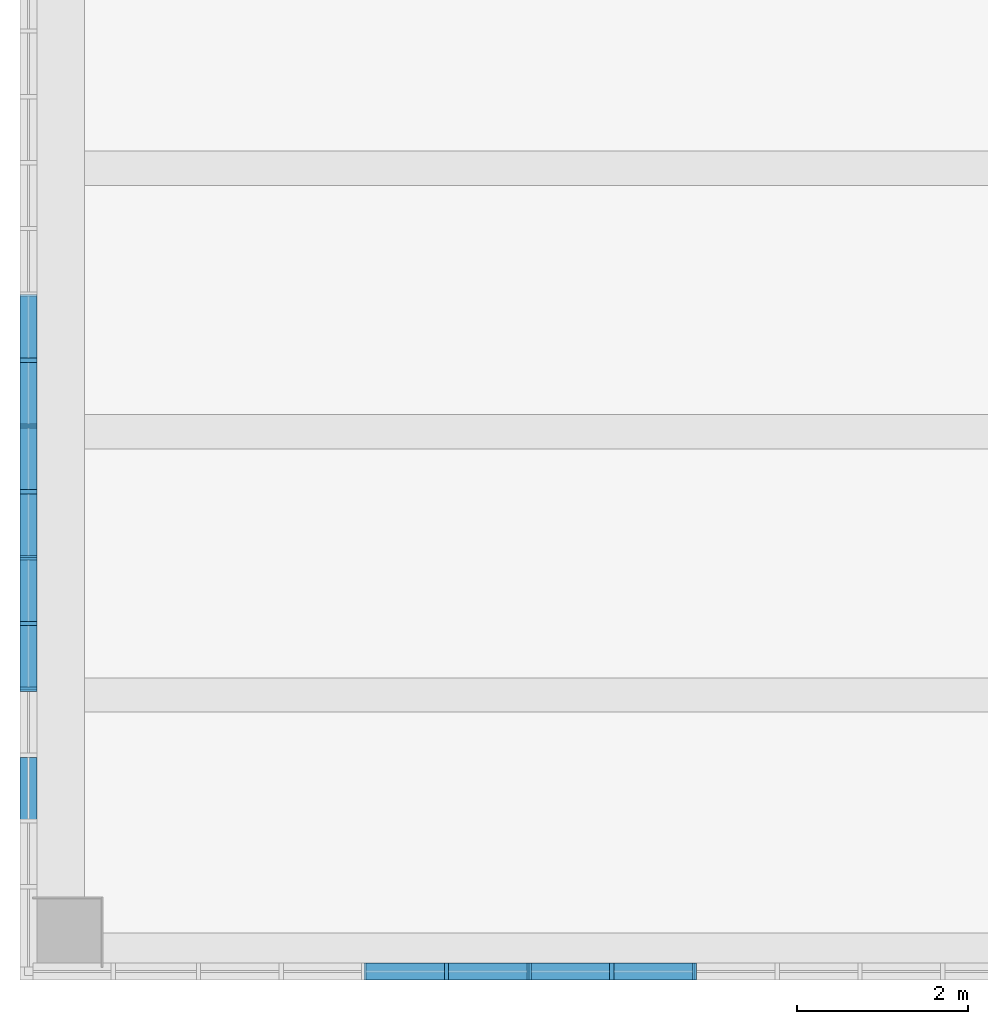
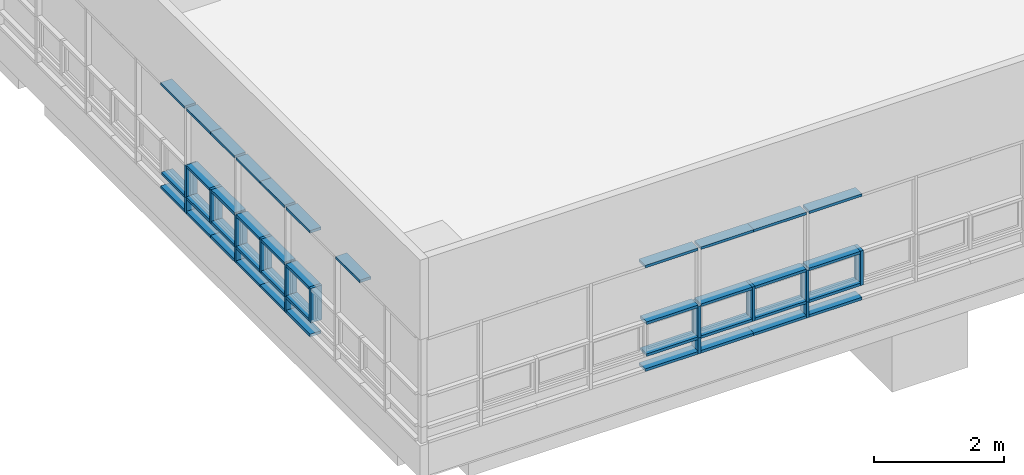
# One storey, part 10 of 82: 55 members, 2 elements without a shape of their own.
"""IFC2X3 building model written with IfcOpenShell, lengths in millimetres."""

from ifc_helpers import new_model, entity, si_unit, converted_unit, derived_unit, direction, frame, origin, origin_2d_with_axis, place, context, subcontext, project, spatial, rectangle, extrude, source, transform, mapped, material, type_object, type_shapes, element, aggregate, save


model = new_model("IFC2X3")

# Units and contexts
model_context = context("Model", 3, precision=0.01, world=origin(), true_north=direction((6.123031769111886e-17, 1.0)))
body_context = subcontext(model_context, "Body", "Model", "MODEL_VIEW")
ifc_project = project(units=[si_unit("LENGTHUNIT", "METRE", prefix="MILLI"), si_unit("AREAUNIT", "SQUARE_METRE"), si_unit("VOLUMEUNIT", "CUBIC_METRE"), converted_unit("PLANEANGLEUNIT", "DEGREE", entity("IfcRatioMeasure", 0.017453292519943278), si_unit("PLANEANGLEUNIT", "RADIAN"), dimensions=[0, 0, 0, 0, 0, 0, 0]), si_unit("MASSUNIT", "GRAM", prefix="KILO"), derived_unit("MASSDENSITYUNIT", [(si_unit("MASSUNIT", "GRAM", prefix="KILO"), 1), (si_unit("LENGTHUNIT", "METRE"), -3)]), derived_unit("MOMENTOFINERTIAUNIT", [(si_unit("LENGTHUNIT", "METRE"), 4)]), si_unit("TIMEUNIT", "SECOND"), si_unit("FREQUENCYUNIT", "HERTZ"), si_unit("THERMODYNAMICTEMPERATUREUNIT", "DEGREE_CELSIUS"), derived_unit("THERMALTRANSMITTANCEUNIT", [(si_unit("MASSUNIT", "GRAM", prefix="KILO"), 1), (si_unit("THERMODYNAMICTEMPERATUREUNIT", "KELVIN"), -1), (si_unit("TIMEUNIT", "SECOND"), -3)]), derived_unit("VOLUMETRICFLOWRATEUNIT", [(si_unit("LENGTHUNIT", "METRE"), 3), (si_unit("TIMEUNIT", "SECOND"), -1)]), derived_unit("MASSFLOWRATEUNIT", [(si_unit("MASSUNIT", "GRAM", prefix="KILO"), 1), (si_unit("TIMEUNIT", "SECOND"), -1)]), derived_unit("ROTATIONALFREQUENCYUNIT", [(si_unit("TIMEUNIT", "SECOND"), -1)]), si_unit("ELECTRICCURRENTUNIT", "AMPERE"), si_unit("ELECTRICVOLTAGEUNIT", "VOLT"), si_unit("POWERUNIT", "WATT"), si_unit("FORCEUNIT", "NEWTON", prefix="KILO"), si_unit("ILLUMINANCEUNIT", "LUX"), si_unit("LUMINOUSFLUXUNIT", "LUMEN"), si_unit("LUMINOUSINTENSITYUNIT", "CANDELA"), derived_unit("USERDEFINED", [(si_unit("MASSUNIT", "GRAM", prefix="KILO"), -1), (si_unit("LENGTHUNIT", "METRE"), -2), (si_unit("TIMEUNIT", "SECOND"), 3), (si_unit("LUMINOUSFLUXUNIT", "LUMEN"), 1)]), derived_unit("SOUNDPOWERUNIT", [(si_unit("MASSUNIT", "GRAM", prefix="KILO"), 1), (si_unit("LENGTHUNIT", "METRE"), 2), (si_unit("TIMEUNIT", "SECOND"), -3)]), derived_unit("SOUNDPRESSUREUNIT", [(si_unit("MASSUNIT", "GRAM", prefix="KILO"), 1), (si_unit("LENGTHUNIT", "METRE"), -1), (si_unit("TIMEUNIT", "SECOND"), -2)]), derived_unit("LINEARVELOCITYUNIT", [(si_unit("LENGTHUNIT", "METRE"), 1), (si_unit("TIMEUNIT", "SECOND"), -1)]), si_unit("PRESSUREUNIT", "PASCAL"), derived_unit("USERDEFINED", [(si_unit("LENGTHUNIT", "METRE"), -2), (si_unit("MASSUNIT", "GRAM", prefix="KILO"), 1), (si_unit("TIMEUNIT", "SECOND"), -2)]), derived_unit("LINEARFORCEUNIT", [(si_unit("MASSUNIT", "GRAM", prefix="KILO"), 1), (si_unit("LENGTHUNIT", "METRE"), 1), (si_unit("TIMEUNIT", "SECOND"), -2), (si_unit("LENGTHUNIT", "METRE"), -1)]), derived_unit("PLANARFORCEUNIT", [(si_unit("MASSUNIT", "GRAM", prefix="KILO"), 1), (si_unit("LENGTHUNIT", "METRE"), 1), (si_unit("TIMEUNIT", "SECOND"), -2), (si_unit("LENGTHUNIT", "METRE"), -2)])], contexts=[model_context])

# Site, building, storey
site_placement = place(None, frame((-14167.972527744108, -657.2125860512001, 0.0)))
site = spatial("IfcSite", under=ifc_project, at=site_placement, Name="Default", CompositionType="ELEMENT")
building_placement = place(site_placement, origin())
building = spatial("IfcBuilding", under=site, at=building_placement, Name="Sample Building", CompositionType="ELEMENT")
storey_placement = place(building_placement, frame((0.0, 0.0, 17500.0)))
storey = spatial("IfcBuildingStorey", under=building, at=storey_placement, Name="지상 5층", CompositionType="ELEMENT", Elevation=17500.00000000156)

# Curtain wall, members
curtain_wall_type = type_object("IfcCurtainWallType", Name="커튼월:CW112-스테인리스 스틸 커튼월", PredefinedType="NOTDEFINED")
curtain_wall_1_placement = place(storey_placement, frame((0.0, 0.0, -17500.0)))
curtain_wall_1 = element("IfcCurtainWall", 1, at=curtain_wall_1_placement, inside=storey, type_object=curtain_wall_type, Name="커튼월:CW112-스테인리스 스틸 커튼월", ObjectType="커튼월:CW112-스테인리스 스틸 커튼월")
ifc_material = material(Name="<Unnamed>")
member_type_1 = type_object("IfcMemberType", Name="직사각형 멀리언:CW200-직사각형 멀리언 50x200mm", PredefinedType="MULLION", material=ifc_material)
shared_shape_1 = source(origin(), body_context, "Body", "SweptSolid", [
    extrude(rectangle(XDim=200.0, YDim=50.0, at=origin_2d_with_axis()), frame((0.0, 0.0, -600.0), z_axis=(0.0, 0.0, 1.0), x_axis=(0.0, -1.0, 0.0)), (0.0, 0.0, 1.0), 600.0),
])
type_shapes(member_type_1, [shared_shape_1])
member_1_placement = place(curtain_wall_1_placement, frame((18895.156070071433, 507.21229514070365, 18400.0), z_axis=(0.0, 0.0, -1.0), x_axis=(1.0, 0.0, 0.0)))
member_1 = element("IfcMember", 2, at=member_1_placement, type_object=member_type_1, material=ifc_material, Name="직사각형 멀리언:CW200-직사각형 멀리언 50x200mm", ObjectType="직사각형 멀리언:CW200-직사각형 멀리언 50x200mm", context=body_context, shape_type="MappedRepresentation", body=[
    mapped(shared_shape_1, transform((0.0, 0.0, 0.0), scale=1.0)),
])
member_2_placement = place(curtain_wall_1_placement, frame((20825.156070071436, 507.21229514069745, 18400.0), z_axis=(0.0, 0.0, -1.0), x_axis=(1.0, 0.0, 0.0)))
member_2 = element("IfcMember", 3, at=member_2_placement, type_object=member_type_1, material=ifc_material, Name="직사각형 멀리언:CW200-직사각형 멀리언 50x200mm", ObjectType="직사각형 멀리언:CW200-직사각형 멀리언 50x200mm", context=body_context, shape_type="MappedRepresentation", body=[
    mapped(shared_shape_1, transform((0.0, 0.0, 0.0), scale=1.0)),
])

curtain_wall_2_placement = place(storey_placement, frame((0.0, 0.0, -17500.0)))
curtain_wall_2 = element("IfcCurtainWall", 4, at=curtain_wall_2_placement, inside=storey, type_object=curtain_wall_type, Name="커튼월:CW112-스테인리스 스틸 커튼월", ObjectType="커튼월:CW112-스테인리스 스틸 커튼월")
member_3_placement = place(curtain_wall_2_placement, frame((14017.339654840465, 7641.674849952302, 18400.0), z_axis=(0.0, 0.0, -1.0), x_axis=(0.0, -1.0, 0.0)))
member_3 = element("IfcMember", 5, at=member_3_placement, type_object=member_type_1, material=ifc_material, Name="직사각형 멀리언:CW200-직사각형 멀리언 50x200mm", ObjectType="직사각형 멀리언:CW200-직사각형 멀리언 50x200mm", context=body_context, shape_type="MappedRepresentation", body=[
    mapped(shared_shape_1, transform((0.0, 0.0, 0.0), scale=1.0)),
])
member_4_placement = place(curtain_wall_2_placement, frame((14017.339654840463, 6104.960564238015, 18400.0), z_axis=(0.0, 0.0, -1.0), x_axis=(0.0, -1.0, 0.0)))
member_4 = element("IfcMember", 6, at=member_4_placement, type_object=member_type_1, material=ifc_material, Name="직사각형 멀리언:CW200-직사각형 멀리언 50x200mm", ObjectType="직사각형 멀리언:CW200-직사각형 멀리언 50x200mm", context=body_context, shape_type="MappedRepresentation", body=[
    mapped(shared_shape_1, transform((0.0, 0.0, 0.0), scale=1.0)),
])
member_5_placement = place(curtain_wall_2_placement, frame((14017.339654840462, 4568.246278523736, 18400.0), z_axis=(0.0, 0.0, -1.0), x_axis=(0.0, -1.0, 0.0)))
member_5 = element("IfcMember", 7, at=member_5_placement, type_object=member_type_1, material=ifc_material, Name="직사각형 멀리언:CW200-직사각형 멀리언 50x200mm", ObjectType="직사각형 멀리언:CW200-직사각형 멀리언 50x200mm", context=body_context, shape_type="MappedRepresentation", body=[
    mapped(shared_shape_1, transform((0.0, 0.0, 0.0), scale=1.0)),
])

# Member
member_type_2 = type_object("IfcMemberType", Name="직사각형 멀리언:CW200-직사각형 멀리언 50x200mm", PredefinedType="MULLION", material=ifc_material)
shared_shape_2 = source(origin(), body_context, "Body", "SweptSolid", [
    extrude(rectangle(XDim=200.0, YDim=50.0, at=origin_2d_with_axis()), frame((0.0, 0.0, -915.0), z_axis=(0.0, 0.0, 1.0), x_axis=(0.0, -1.0, 0.0)), (0.0, 0.0, 1.0), 915.000000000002),
])
type_shapes(member_type_2, [shared_shape_2])
member_6_placement = place(curtain_wall_1_placement, frame((19835.15607007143, 507.21229514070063, 18400.0), z_axis=(1.0, 0.0, 0.0), x_axis=(0.0, 0.0, 1.0)))
member_6 = element("IfcMember", 8, at=member_6_placement, type_object=member_type_2, material=ifc_material, Name="직사각형 멀리언:CW200-직사각형 멀리언 50x200mm", ObjectType="직사각형 멀리언:CW200-직사각형 멀리언 50x200mm", context=body_context, shape_type="MappedRepresentation", body=[
    mapped(shared_shape_2, transform((0.0, 0.0, 0.0), scale=1.0)),
])

member_7_placement = place(curtain_wall_1_placement, frame((19835.15607007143, 507.21229514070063, 19000.0), z_axis=(1.0, 0.0, 0.0), x_axis=(0.0, 0.0, 1.0)))
member_7 = element("IfcMember", 9, at=member_7_placement, type_object=member_type_2, material=ifc_material, Name="직사각형 멀리언:CW200-직사각형 멀리언 50x200mm", ObjectType="직사각형 멀리언:CW200-직사각형 멀리언 50x200mm", context=body_context, shape_type="MappedRepresentation", body=[
    mapped(shared_shape_2, transform((0.0, 0.0, 0.0), scale=1.0)),
])

member_8_placement = place(curtain_wall_1_placement, frame((21765.156070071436, 507.2122951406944, 18400.0), z_axis=(1.0, 0.0, 0.0), x_axis=(0.0, 0.0, 1.0)))
member_8 = element("IfcMember", 10, at=member_8_placement, type_object=member_type_2, material=ifc_material, Name="직사각형 멀리언:CW200-직사각형 멀리언 50x200mm", ObjectType="직사각형 멀리언:CW200-직사각형 멀리언 50x200mm", context=body_context, shape_type="MappedRepresentation", body=[
    mapped(shared_shape_2, transform((0.0, 0.0, 0.0), scale=1.0)),
])

member_9_placement = place(curtain_wall_1_placement, frame((21765.156070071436, 507.2122951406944, 19000.0), z_axis=(1.0, 0.0, 0.0), x_axis=(0.0, 0.0, 1.0)))
member_9 = element("IfcMember", 11, at=member_9_placement, type_object=member_type_2, material=ifc_material, Name="직사각형 멀리언:CW200-직사각형 멀리언 50x200mm", ObjectType="직사각형 멀리언:CW200-직사각형 멀리언 50x200mm", context=body_context, shape_type="MappedRepresentation", body=[
    mapped(shared_shape_2, transform((0.0, 0.0, 0.0), scale=1.0)),
])

member_10_placement = place(curtain_wall_1_placement, frame((18870.156070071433, 507.21229514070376, 18400.0), z_axis=(1.0, 0.0, 0.0), x_axis=(0.0, 0.0, 1.0)))
member_10 = element("IfcMember", 12, at=member_10_placement, type_object=member_type_2, material=ifc_material, Name="직사각형 멀리언:CW200-직사각형 멀리언 50x200mm", ObjectType="직사각형 멀리언:CW200-직사각형 멀리언 50x200mm", context=body_context, shape_type="MappedRepresentation", body=[
    mapped(shared_shape_2, transform((0.0, 0.0, 0.0), scale=1.0)),
])

member_11_placement = place(curtain_wall_1_placement, frame((18870.156070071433, 507.21229514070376, 19000.0), z_axis=(1.0, 0.0, 0.0), x_axis=(0.0, 0.0, 1.0)))
member_11 = element("IfcMember", 13, at=member_11_placement, type_object=member_type_2, material=ifc_material, Name="직사각형 멀리언:CW200-직사각형 멀리언 50x200mm", ObjectType="직사각형 멀리언:CW200-직사각형 멀리언 50x200mm", context=body_context, shape_type="MappedRepresentation", body=[
    mapped(shared_shape_2, transform((0.0, 0.0, 0.0), scale=1.0)),
])

member_12_placement = place(curtain_wall_1_placement, frame((20800.15607007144, 507.2122951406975, 18400.0), z_axis=(1.0, 0.0, 0.0), x_axis=(0.0, 0.0, 1.0)))
member_12 = element("IfcMember", 14, at=member_12_placement, type_object=member_type_2, material=ifc_material, Name="직사각형 멀리언:CW200-직사각형 멀리언 50x200mm", ObjectType="직사각형 멀리언:CW200-직사각형 멀리언 50x200mm", context=body_context, shape_type="MappedRepresentation", body=[
    mapped(shared_shape_2, transform((0.0, 0.0, 0.0), scale=1.0)),
])

member_13_placement = place(curtain_wall_1_placement, frame((20800.15607007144, 507.2122951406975, 19000.0), z_axis=(1.0, 0.0, 0.0), x_axis=(0.0, 0.0, 1.0)))
member_13 = element("IfcMember", 15, at=member_13_placement, type_object=member_type_2, material=ifc_material, Name="직사각형 멀리언:CW200-직사각형 멀리언 50x200mm", ObjectType="직사각형 멀리언:CW200-직사각형 멀리언 50x200mm", context=body_context, shape_type="MappedRepresentation", body=[
    mapped(shared_shape_2, transform((0.0, 0.0, 0.0), scale=1.0)),
])

member_type_3 = type_object("IfcMemberType", Name="직사각형 멀리언:CW200-직사각형 멀리언 50x200mm", PredefinedType="MULLION", material=ifc_material)
shared_shape_3 = source(origin(), body_context, "Body", "SweptSolid", [
    extrude(rectangle(XDim=200.0, YDim=50.0, at=origin_2d_with_axis()), frame((0.0, 0.0, -300.0), z_axis=(0.0, 0.0, 1.0), x_axis=(0.0, -1.0, 0.0)), (0.0, 0.0, 1.0), 300.0000000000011),
])
type_shapes(member_type_3, [shared_shape_3])
member_14_placement = place(curtain_wall_1_placement, frame((18895.156070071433, 507.21229514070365, 18100.0), z_axis=(0.0, 0.0, -1.0), x_axis=(1.0, 0.0, 0.0)))
member_14 = element("IfcMember", 16, at=member_14_placement, type_object=member_type_3, material=ifc_material, Name="직사각형 멀리언:CW200-직사각형 멀리언 50x200mm", ObjectType="직사각형 멀리언:CW200-직사각형 멀리언 50x200mm", context=body_context, shape_type="MappedRepresentation", body=[
    mapped(shared_shape_3, transform((0.0, 0.0, 0.0), scale=1.0)),
])

member_15_placement = place(curtain_wall_1_placement, frame((20825.156070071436, 507.21229514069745, 18100.0), z_axis=(0.0, 0.0, -1.0), x_axis=(1.0, 0.0, 0.0)))
member_15 = element("IfcMember", 17, at=member_15_placement, type_object=member_type_3, material=ifc_material, Name="직사각형 멀리언:CW200-직사각형 멀리언 50x200mm", ObjectType="직사각형 멀리언:CW200-직사각형 멀리언 50x200mm", context=body_context, shape_type="MappedRepresentation", body=[
    mapped(shared_shape_3, transform((0.0, 0.0, 0.0), scale=1.0)),
])

member_16_placement = place(curtain_wall_2_placement, frame((14017.339654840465, 7641.674849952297, 18100.0), z_axis=(0.0, 0.0, -1.0), x_axis=(0.0, -1.0, 0.0)))
member_16 = element("IfcMember", 18, at=member_16_placement, type_object=member_type_3, material=ifc_material, Name="직사각형 멀리언:CW200-직사각형 멀리언 50x200mm", ObjectType="직사각형 멀리언:CW200-직사각형 멀리언 50x200mm", context=body_context, shape_type="MappedRepresentation", body=[
    mapped(shared_shape_3, transform((0.0, 0.0, 0.0), scale=1.0)),
])

member_17_placement = place(curtain_wall_2_placement, frame((14017.339654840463, 6104.960564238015, 18100.0), z_axis=(0.0, 0.0, -1.0), x_axis=(0.0, -1.0, 0.0)))
member_17 = element("IfcMember", 19, at=member_17_placement, type_object=member_type_3, material=ifc_material, Name="직사각형 멀리언:CW200-직사각형 멀리언 50x200mm", ObjectType="직사각형 멀리언:CW200-직사각형 멀리언 50x200mm", context=body_context, shape_type="MappedRepresentation", body=[
    mapped(shared_shape_3, transform((0.0, 0.0, 0.0), scale=1.0)),
])

member_18_placement = place(curtain_wall_2_placement, frame((14017.339654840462, 4568.246278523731, 18100.0), z_axis=(0.0, 0.0, -1.0), x_axis=(0.0, -1.0, 0.0)))
member_18 = element("IfcMember", 20, at=member_18_placement, type_object=member_type_3, material=ifc_material, Name="직사각형 멀리언:CW200-직사각형 멀리언 50x200mm", ObjectType="직사각형 멀리언:CW200-직사각형 멀리언 50x200mm", context=body_context, shape_type="MappedRepresentation", body=[
    mapped(shared_shape_3, transform((0.0, 0.0, 0.0), scale=1.0)),
])

member_type_4 = type_object("IfcMemberType", Name="직사각형 멀리언:CW200-직사각형 멀리언 50x200mm", PredefinedType="MULLION", material=ifc_material)
shared_shape_4 = source(origin(), body_context, "Body", "SweptSolid", [
    extrude(rectangle(XDim=200.0, YDim=50.0, at=origin_2d_with_axis()), frame((-25.0, 0.0, -743.3571428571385), z_axis=(0.0, 0.0, 1.0), x_axis=(0.0, -1.0, 0.0)), (0.0, 0.0, 1.0), 743.3571428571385),
])
type_shapes(member_type_4, [shared_shape_4])
member_19_placement = place(curtain_wall_2_placement, frame((14017.339654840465, 7616.674849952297, 18100.0), z_axis=(0.0, 1.0, 0.0), x_axis=(0.0, 0.0, -1.0)))
member_19 = element("IfcMember", 21, at=member_19_placement, type_object=member_type_4, material=ifc_material, Name="직사각형 멀리언:CW200-직사각형 멀리언 50x200mm", ObjectType="직사각형 멀리언:CW200-직사각형 멀리언 50x200mm", context=body_context, shape_type="MappedRepresentation", body=[
    mapped(shared_shape_4, transform((0.0, 0.0, 0.0), scale=1.0)),
])

member_20_placement = place(curtain_wall_2_placement, frame((14017.339654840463, 6079.960564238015, 18100.0), z_axis=(0.0, 1.0, 0.0), x_axis=(0.0, 0.0, -1.0)))
member_20 = element("IfcMember", 22, at=member_20_placement, type_object=member_type_4, material=ifc_material, Name="직사각형 멀리언:CW200-직사각형 멀리언 50x200mm", ObjectType="직사각형 멀리언:CW200-직사각형 멀리언 50x200mm", context=body_context, shape_type="MappedRepresentation", body=[
    mapped(shared_shape_4, transform((0.0, 0.0, 0.0), scale=1.0)),
])

member_21_placement = place(curtain_wall_2_placement, frame((14017.339654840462, 4543.246278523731, 18100.0), z_axis=(0.0, 1.0, 0.0), x_axis=(0.0, 0.0, -1.0)))
member_21 = element("IfcMember", 23, at=member_21_placement, type_object=member_type_4, material=ifc_material, Name="직사각형 멀리언:CW200-직사각형 멀리언 50x200mm", ObjectType="직사각형 멀리언:CW200-직사각형 멀리언 50x200mm", context=body_context, shape_type="MappedRepresentation", body=[
    mapped(shared_shape_4, transform((0.0, 0.0, 0.0), scale=1.0)),
])

member_type_5 = type_object("IfcMemberType", Name="직사각형 멀리언:CW200-직사각형 멀리언 50x200mm", PredefinedType="MULLION", material=ifc_material)
shared_shape_5 = source(origin(), body_context, "Body", "SweptSolid", [
    extrude(rectangle(XDim=200.0, YDim=50.0, at=origin_2d_with_axis()), frame((0.0, 0.0, -718.3571428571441), z_axis=(0.0, 0.0, 1.0), x_axis=(0.0, -1.0, 0.0)), (0.0, 0.0, 1.0), 718.3571428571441),
])
type_shapes(member_type_5, [shared_shape_5])
member_22_placement = place(curtain_wall_2_placement, frame((14017.339654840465, 6898.317707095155, 18400.0), z_axis=(0.0, -1.0, 0.0), x_axis=(0.0, 0.0, 1.0)))
member_22 = element("IfcMember", 24, at=member_22_placement, type_object=member_type_5, material=ifc_material, Name="직사각형 멀리언:CW200-직사각형 멀리언 50x200mm", ObjectType="직사각형 멀리언:CW200-직사각형 멀리언 50x200mm", context=body_context, shape_type="MappedRepresentation", body=[
    mapped(shared_shape_5, transform((0.0, 0.0, 0.0), scale=1.0)),
])

member_23_placement = place(curtain_wall_2_placement, frame((14017.339654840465, 6898.317707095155, 19000.0), z_axis=(0.0, -1.0, 0.0), x_axis=(0.0, 0.0, 1.0)))
member_23 = element("IfcMember", 25, at=member_23_placement, type_object=member_type_5, material=ifc_material, Name="직사각형 멀리언:CW200-직사각형 멀리언 50x200mm", ObjectType="직사각형 멀리언:CW200-직사각형 멀리언 50x200mm", context=body_context, shape_type="MappedRepresentation", body=[
    mapped(shared_shape_5, transform((0.0, 0.0, 0.0), scale=1.0)),
])

member_24_placement = place(curtain_wall_2_placement, frame((14017.339654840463, 5361.6034213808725, 18400.0), z_axis=(0.0, -1.0, 0.0), x_axis=(0.0, 0.0, 1.0)))
member_24 = element("IfcMember", 26, at=member_24_placement, type_object=member_type_5, material=ifc_material, Name="직사각형 멀리언:CW200-직사각형 멀리언 50x200mm", ObjectType="직사각형 멀리언:CW200-직사각형 멀리언 50x200mm", context=body_context, shape_type="MappedRepresentation", body=[
    mapped(shared_shape_5, transform((0.0, 0.0, 0.0), scale=1.0)),
])

member_25_placement = place(curtain_wall_2_placement, frame((14017.339654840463, 5361.6034213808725, 19000.0), z_axis=(0.0, -1.0, 0.0), x_axis=(0.0, 0.0, 1.0)))
member_25 = element("IfcMember", 27, at=member_25_placement, type_object=member_type_5, material=ifc_material, Name="직사각형 멀리언:CW200-직사각형 멀리언 50x200mm", ObjectType="직사각형 멀리언:CW200-직사각형 멀리언 50x200mm", context=body_context, shape_type="MappedRepresentation", body=[
    mapped(shared_shape_5, transform((0.0, 0.0, 0.0), scale=1.0)),
])

member_26_placement = place(curtain_wall_2_placement, frame((14017.33965484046, 3824.8891356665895, 18400.0), z_axis=(0.0, -1.0, 0.0), x_axis=(0.0, 0.0, 1.0)))
member_26 = element("IfcMember", 28, at=member_26_placement, type_object=member_type_5, material=ifc_material, Name="직사각형 멀리언:CW200-직사각형 멀리언 50x200mm", ObjectType="직사각형 멀리언:CW200-직사각형 멀리언 50x200mm", context=body_context, shape_type="MappedRepresentation", body=[
    mapped(shared_shape_5, transform((0.0, 0.0, 0.0), scale=1.0)),
])

member_27_placement = place(curtain_wall_2_placement, frame((14017.33965484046, 3824.8891356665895, 19000.0), z_axis=(0.0, -1.0, 0.0), x_axis=(0.0, 0.0, 1.0)))
member_27 = element("IfcMember", 29, at=member_27_placement, type_object=member_type_5, material=ifc_material, Name="직사각형 멀리언:CW200-직사각형 멀리언 50x200mm", ObjectType="직사각형 멀리언:CW200-직사각형 멀리언 50x200mm", context=body_context, shape_type="MappedRepresentation", body=[
    mapped(shared_shape_5, transform((0.0, 0.0, 0.0), scale=1.0)),
])

member_28_placement = place(curtain_wall_2_placement, frame((14017.339654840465, 7666.674849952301, 18400.0), z_axis=(0.0, -1.0, 0.0), x_axis=(0.0, 0.0, 1.0)))
member_28 = element("IfcMember", 30, at=member_28_placement, type_object=member_type_5, material=ifc_material, Name="직사각형 멀리언:CW200-직사각형 멀리언 50x200mm", ObjectType="직사각형 멀리언:CW200-직사각형 멀리언 50x200mm", context=body_context, shape_type="MappedRepresentation", body=[
    mapped(shared_shape_5, transform((0.0, 0.0, 0.0), scale=1.0)),
])

member_29_placement = place(curtain_wall_2_placement, frame((14017.339654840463, 6129.960564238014, 18400.0), z_axis=(0.0, -1.0, 0.0), x_axis=(0.0, 0.0, 1.0)))
member_29 = element("IfcMember", 31, at=member_29_placement, type_object=member_type_5, material=ifc_material, Name="직사각형 멀리언:CW200-직사각형 멀리언 50x200mm", ObjectType="직사각형 멀리언:CW200-직사각형 멀리언 50x200mm", context=body_context, shape_type="MappedRepresentation", body=[
    mapped(shared_shape_5, transform((0.0, 0.0, 0.0), scale=1.0)),
])

member_30_placement = place(curtain_wall_2_placement, frame((14017.339654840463, 6129.960564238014, 19000.0), z_axis=(0.0, -1.0, 0.0), x_axis=(0.0, 0.0, 1.0)))
member_30 = element("IfcMember", 32, at=member_30_placement, type_object=member_type_5, material=ifc_material, Name="직사각형 멀리언:CW200-직사각형 멀리언 50x200mm", ObjectType="직사각형 멀리언:CW200-직사각형 멀리언 50x200mm", context=body_context, shape_type="MappedRepresentation", body=[
    mapped(shared_shape_5, transform((0.0, 0.0, 0.0), scale=1.0)),
])

member_31_placement = place(curtain_wall_2_placement, frame((14017.339654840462, 4593.246278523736, 18400.0), z_axis=(0.0, -1.0, 0.0), x_axis=(0.0, 0.0, 1.0)))
member_31 = element("IfcMember", 33, at=member_31_placement, type_object=member_type_5, material=ifc_material, Name="직사각형 멀리언:CW200-직사각형 멀리언 50x200mm", ObjectType="직사각형 멀리언:CW200-직사각형 멀리언 50x200mm", context=body_context, shape_type="MappedRepresentation", body=[
    mapped(shared_shape_5, transform((0.0, 0.0, 0.0), scale=1.0)),
])

member_32_placement = place(curtain_wall_2_placement, frame((14017.339654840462, 4593.246278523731, 19000.0), z_axis=(0.0, -1.0, 0.0), x_axis=(0.0, 0.0, 1.0)))
member_32 = element("IfcMember", 34, at=member_32_placement, type_object=member_type_5, material=ifc_material, Name="직사각형 멀리언:CW200-직사각형 멀리언 50x200mm", ObjectType="직사각형 멀리언:CW200-직사각형 멀리언 50x200mm", context=body_context, shape_type="MappedRepresentation", body=[
    mapped(shared_shape_5, transform((0.0, 0.0, 0.0), scale=1.0)),
])

member_type_6 = type_object("IfcMemberType", Name="직사각형 멀리언:CW200-직사각형 멀리언 50x200mm", PredefinedType="MULLION", material=ifc_material)
shared_shape_6 = source(origin(), body_context, "Body", "SweptSolid", [
    extrude(rectangle(XDim=200.0, YDim=50.0, at=origin_2d_with_axis()), frame((-25.0, 0.0, -743.3571428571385), z_axis=(0.0, 0.0, 1.0), x_axis=(0.0, -1.0, 0.0)), (0.0, 0.0, 1.0), 743.3571428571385),
])
type_shapes(member_type_6, [shared_shape_6])
member_33_placement = place(curtain_wall_2_placement, frame((14017.339654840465, 7666.674849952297, 20100.0), z_axis=(0.0, -1.0, 0.0), x_axis=(0.0, 0.0, 1.0)))
member_33 = element("IfcMember", 35, at=member_33_placement, type_object=member_type_6, material=ifc_material, Name="직사각형 멀리언:CW200-직사각형 멀리언 50x200mm", ObjectType="직사각형 멀리언:CW200-직사각형 멀리언 50x200mm", context=body_context, shape_type="MappedRepresentation", body=[
    mapped(shared_shape_6, transform((0.0, 0.0, 0.0), scale=1.0)),
])

member_34_placement = place(curtain_wall_2_placement, frame((14017.339654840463, 6129.960564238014, 20100.0), z_axis=(0.0, -1.0, 0.0), x_axis=(0.0, 0.0, 1.0)))
member_34 = element("IfcMember", 36, at=member_34_placement, type_object=member_type_6, material=ifc_material, Name="직사각형 멀리언:CW200-직사각형 멀리언 50x200mm", ObjectType="직사각형 멀리언:CW200-직사각형 멀리언 50x200mm", context=body_context, shape_type="MappedRepresentation", body=[
    mapped(shared_shape_6, transform((0.0, 0.0, 0.0), scale=1.0)),
])

member_35_placement = place(curtain_wall_2_placement, frame((14017.339654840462, 4593.246278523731, 20100.0), z_axis=(0.0, -1.0, 0.0), x_axis=(0.0, 0.0, 1.0)))
member_35 = element("IfcMember", 37, at=member_35_placement, type_object=member_type_6, material=ifc_material, Name="직사각형 멀리언:CW200-직사각형 멀리언 50x200mm", ObjectType="직사각형 멀리언:CW200-직사각형 멀리언 50x200mm", context=body_context, shape_type="MappedRepresentation", body=[
    mapped(shared_shape_6, transform((0.0, 0.0, 0.0), scale=1.0)),
])

member_type_7 = type_object("IfcMemberType", Name="직사각형 멀리언:CW200-직사각형 멀리언 50x200mm", PredefinedType="MULLION", material=ifc_material)
shared_shape_7 = source(origin(), body_context, "Body", "SweptSolid", [
    extrude(rectangle(XDim=200.0, YDim=50.0, at=origin_2d_with_axis()), frame((0.0, 0.0, -650.0), z_axis=(0.0, 0.0, 1.0), x_axis=(0.0, -1.0, 0.0)), (0.0, 0.0, 1.0), 650.0000000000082),
])
type_shapes(member_type_7, [shared_shape_7])
member_36_placement = place(curtain_wall_1_placement, frame((19860.156070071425, 507.2122951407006, 18375.0), z_axis=(0.0, 0.0, -1.0), x_axis=(1.0, 0.0, 0.0)))
member_36 = element("IfcMember", 38, at=member_36_placement, type_object=member_type_7, material=ifc_material, Name="직사각형 멀리언:CW200-직사각형 멀리언 50x200mm", ObjectType="직사각형 멀리언:CW200-직사각형 멀리언 50x200mm", context=body_context, shape_type="MappedRepresentation", body=[
    mapped(shared_shape_7, transform((0.0, 0.0, 0.0), scale=1.0)),
])

member_37_placement = place(curtain_wall_1_placement, frame((21790.156070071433, 507.2122951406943, 18375.0), z_axis=(0.0, 0.0, -1.0), x_axis=(1.0, 0.0, 0.0)))
member_37 = element("IfcMember", 39, at=member_37_placement, type_object=member_type_7, material=ifc_material, Name="직사각형 멀리언:CW200-직사각형 멀리언 50x200mm", ObjectType="직사각형 멀리언:CW200-직사각형 멀리언 50x200mm", context=body_context, shape_type="MappedRepresentation", body=[
    mapped(shared_shape_7, transform((0.0, 0.0, 0.0), scale=1.0)),
])

member_38_placement = place(curtain_wall_2_placement, frame((14017.339654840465, 6873.317707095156, 18375.0), z_axis=(0.0, 0.0, -1.0), x_axis=(0.0, -1.0, 0.0)))
member_38 = element("IfcMember", 40, at=member_38_placement, type_object=member_type_7, material=ifc_material, Name="직사각형 멀리언:CW200-직사각형 멀리언 50x200mm", ObjectType="직사각형 멀리언:CW200-직사각형 멀리언 50x200mm", context=body_context, shape_type="MappedRepresentation", body=[
    mapped(shared_shape_7, transform((0.0, 0.0, 0.0), scale=1.0)),
])

member_39_placement = place(curtain_wall_2_placement, frame((14017.339654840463, 5336.6034213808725, 18375.0), z_axis=(0.0, 0.0, -1.0), x_axis=(0.0, -1.0, 0.0)))
member_39 = element("IfcMember", 41, at=member_39_placement, type_object=member_type_7, material=ifc_material, Name="직사각형 멀리언:CW200-직사각형 멀리언 50x200mm", ObjectType="직사각형 멀리언:CW200-직사각형 멀리언 50x200mm", context=body_context, shape_type="MappedRepresentation", body=[
    mapped(shared_shape_7, transform((0.0, 0.0, 0.0), scale=1.0)),
])

member_40_placement = place(curtain_wall_2_placement, frame((14017.33965484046, 3799.88913566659, 18375.0), z_axis=(0.0, 0.0, -1.0), x_axis=(0.0, -1.0, 0.0)))
member_40 = element("IfcMember", 42, at=member_40_placement, type_object=member_type_7, material=ifc_material, Name="직사각형 멀리언:CW200-직사각형 멀리언 50x200mm", ObjectType="직사각형 멀리언:CW200-직사각형 멀리언 50x200mm", context=body_context, shape_type="MappedRepresentation", body=[
    mapped(shared_shape_7, transform((0.0, 0.0, 0.0), scale=1.0)),
])

member_type_8 = type_object("IfcMemberType", Name="직사각형 멀리언:CW200-직사각형 멀리언 50x200mm", PredefinedType="MULLION", material=ifc_material)
shared_shape_8 = source(origin(), body_context, "Body", "SweptSolid", [
    extrude(rectangle(XDim=200.0, YDim=50.0, at=origin_2d_with_axis()), frame((-25.0, 0.0, -743.3571428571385), z_axis=(0.0, 0.0, 1.0), x_axis=(0.0, -1.0, 0.0)), (0.0, 0.0, 1.0), 743.3571428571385),
])
type_shapes(member_type_8, [shared_shape_8])
member_41_placement = place(curtain_wall_2_placement, frame((14017.339654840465, 6873.317707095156, 20100.0), z_axis=(0.0, -1.0, 0.0), x_axis=(0.0, 0.0, 1.0)))
member_41 = element("IfcMember", 43, at=member_41_placement, type_object=member_type_8, material=ifc_material, Name="직사각형 멀리언:CW200-직사각형 멀리언 50x200mm", ObjectType="직사각형 멀리언:CW200-직사각형 멀리언 50x200mm", context=body_context, shape_type="MappedRepresentation", body=[
    mapped(shared_shape_8, transform((0.0, 0.0, 0.0), scale=1.0)),
])

member_42_placement = place(curtain_wall_2_placement, frame((14017.339654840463, 5336.6034213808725, 20100.0), z_axis=(0.0, -1.0, 0.0), x_axis=(0.0, 0.0, 1.0)))
member_42 = element("IfcMember", 44, at=member_42_placement, type_object=member_type_8, material=ifc_material, Name="직사각형 멀리언:CW200-직사각형 멀리언 50x200mm", ObjectType="직사각형 멀리언:CW200-직사각형 멀리언 50x200mm", context=body_context, shape_type="MappedRepresentation", body=[
    mapped(shared_shape_8, transform((0.0, 0.0, 0.0), scale=1.0)),
])

member_43_placement = place(curtain_wall_2_placement, frame((14017.33965484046, 3799.88913566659, 20100.0), z_axis=(0.0, -1.0, 0.0), x_axis=(0.0, 0.0, 1.0)))
member_43 = element("IfcMember", 45, at=member_43_placement, type_object=member_type_8, material=ifc_material, Name="직사각형 멀리언:CW200-직사각형 멀리언 50x200mm", ObjectType="직사각형 멀리언:CW200-직사각형 멀리언 50x200mm", context=body_context, shape_type="MappedRepresentation", body=[
    mapped(shared_shape_8, transform((0.0, 0.0, 0.0), scale=1.0)),
])

member_44_placement = place(curtain_wall_2_placement, frame((14017.339654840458, 2263.1748499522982, 20100.0), z_axis=(0.0, -1.0, 0.0), x_axis=(0.0, 0.0, 1.0)))
member_44 = element("IfcMember", 46, at=member_44_placement, type_object=member_type_8, material=ifc_material, Name="직사각형 멀리언:CW200-직사각형 멀리언 50x200mm", ObjectType="직사각형 멀리언:CW200-직사각형 멀리언 50x200mm", context=body_context, shape_type="MappedRepresentation", body=[
    mapped(shared_shape_8, transform((0.0, 0.0, 0.0), scale=1.0)),
])

member_type_9 = type_object("IfcMemberType", Name="직사각형 멀리언:CW200-직사각형 멀리언 50x200mm", PredefinedType="MULLION", material=ifc_material)
shared_shape_9 = source(origin(), body_context, "Body", "SweptSolid", [
    extrude(rectangle(XDim=200.0, YDim=50.0, at=origin_2d_with_axis()), frame((-25.0, 0.0, -743.3571428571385), z_axis=(0.0, 0.0, 1.0), x_axis=(0.0, -1.0, 0.0)), (0.0, 0.0, 1.0), 743.3571428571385),
])
type_shapes(member_type_9, [shared_shape_9])
member_45_placement = place(curtain_wall_2_placement, frame((14017.339654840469, 8410.031992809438, 18100.0), z_axis=(0.0, 1.0, 0.0), x_axis=(0.0, 0.0, -1.0)))
member_45 = element("IfcMember", 47, at=member_45_placement, type_object=member_type_9, material=ifc_material, Name="직사각형 멀리언:CW200-직사각형 멀리언 50x200mm", ObjectType="직사각형 멀리언:CW200-직사각형 멀리언 50x200mm", context=body_context, shape_type="MappedRepresentation", body=[
    mapped(shared_shape_9, transform((0.0, 0.0, 0.0), scale=1.0)),
])

member_46_placement = place(curtain_wall_2_placement, frame((14017.339654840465, 6873.317707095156, 18100.0), z_axis=(0.0, 1.0, 0.0), x_axis=(0.0, 0.0, -1.0)))
member_46 = element("IfcMember", 48, at=member_46_placement, type_object=member_type_9, material=ifc_material, Name="직사각형 멀리언:CW200-직사각형 멀리언 50x200mm", ObjectType="직사각형 멀리언:CW200-직사각형 멀리언 50x200mm", context=body_context, shape_type="MappedRepresentation", body=[
    mapped(shared_shape_9, transform((0.0, 0.0, 0.0), scale=1.0)),
])

member_47_placement = place(curtain_wall_2_placement, frame((14017.339654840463, 5336.6034213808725, 18100.0), z_axis=(0.0, 1.0, 0.0), x_axis=(0.0, 0.0, -1.0)))
member_47 = element("IfcMember", 49, at=member_47_placement, type_object=member_type_9, material=ifc_material, Name="직사각형 멀리언:CW200-직사각형 멀리언 50x200mm", ObjectType="직사각형 멀리언:CW200-직사각형 멀리언 50x200mm", context=body_context, shape_type="MappedRepresentation", body=[
    mapped(shared_shape_9, transform((0.0, 0.0, 0.0), scale=1.0)),
])

aggregate(curtain_wall_2, [member_33, member_19, member_22, member_23, member_16, member_3, member_34, member_20, member_24, member_25, member_17, member_4, member_35, member_21, member_26, member_27, member_18, member_5, member_45, member_28, member_41, member_46, member_29, member_30, member_38, member_42, member_47, member_31, member_32, member_39, member_43, member_40, member_44])

member_type_10 = type_object("IfcMemberType", Name="직사각형 멀리언:CW200-직사각형 멀리언 50x200mm", PredefinedType="MULLION", material=ifc_material)
shared_shape_10 = source(origin(), body_context, "Body", "SweptSolid", [
    extrude(rectangle(XDim=200.0, YDim=50.0, at=origin_2d_with_axis()), frame((-25.0, 0.0, -940.0), z_axis=(0.0, 0.0, 1.0), x_axis=(0.0, -1.0, 0.0)), (0.0, 0.0, 1.0), 939.9999999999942),
])
type_shapes(member_type_10, [shared_shape_10])
member_48_placement = place(curtain_wall_1_placement, frame((18870.156070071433, 507.21229514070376, 20100.0), z_axis=(1.0, 0.0, 0.0), x_axis=(0.0, 0.0, 1.0)))
member_48 = element("IfcMember", 50, at=member_48_placement, type_object=member_type_10, material=ifc_material, Name="직사각형 멀리언:CW200-직사각형 멀리언 50x200mm", ObjectType="직사각형 멀리언:CW200-직사각형 멀리언 50x200mm", context=body_context, shape_type="MappedRepresentation", body=[
    mapped(shared_shape_10, transform((0.0, 0.0, 0.0), scale=1.0)),
])

member_49_placement = place(curtain_wall_1_placement, frame((20800.156070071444, 507.2122951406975, 20100.0), z_axis=(1.0, 0.0, 0.0), x_axis=(0.0, 0.0, 1.0)))
member_49 = element("IfcMember", 51, at=member_49_placement, type_object=member_type_10, material=ifc_material, Name="직사각형 멀리언:CW200-직사각형 멀리언 50x200mm", ObjectType="직사각형 멀리언:CW200-직사각형 멀리언 50x200mm", context=body_context, shape_type="MappedRepresentation", body=[
    mapped(shared_shape_10, transform((0.0, 0.0, 0.0), scale=1.0)),
])

member_type_11 = type_object("IfcMemberType", Name="직사각형 멀리언:CW200-직사각형 멀리언 50x200mm", PredefinedType="MULLION", material=ifc_material)
shared_shape_11 = source(origin(), body_context, "Body", "SweptSolid", [
    extrude(rectangle(XDim=200.0, YDim=50.0, at=origin_2d_with_axis()), frame((-25.0, 0.0, -940.0), z_axis=(0.0, 0.0, 1.0), x_axis=(0.0, -1.0, 0.0)), (0.0, 0.0, 1.0), 940.0000000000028),
])
type_shapes(member_type_11, [shared_shape_11])
member_50_placement = place(curtain_wall_1_placement, frame((18920.156070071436, 507.2122951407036, 18100.0), z_axis=(-1.0, 0.0, 0.0), x_axis=(0.0, 0.0, -1.0)))
member_50 = element("IfcMember", 52, at=member_50_placement, type_object=member_type_11, material=ifc_material, Name="직사각형 멀리언:CW200-직사각형 멀리언 50x200mm", ObjectType="직사각형 멀리언:CW200-직사각형 멀리언 50x200mm", context=body_context, shape_type="MappedRepresentation", body=[
    mapped(shared_shape_11, transform((0.0, 0.0, 0.0), scale=1.0)),
])

member_51_placement = place(curtain_wall_1_placement, frame((20850.156070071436, 507.2122951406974, 18100.0), z_axis=(-1.0, 0.0, 0.0), x_axis=(0.0, 0.0, -1.0)))
member_51 = element("IfcMember", 53, at=member_51_placement, type_object=member_type_11, material=ifc_material, Name="직사각형 멀리언:CW200-직사각형 멀리언 50x200mm", ObjectType="직사각형 멀리언:CW200-직사각형 멀리언 50x200mm", context=body_context, shape_type="MappedRepresentation", body=[
    mapped(shared_shape_11, transform((0.0, 0.0, 0.0), scale=1.0)),
])

member_type_12 = type_object("IfcMemberType", Name="직사각형 멀리언:CW200-직사각형 멀리언 50x200mm", PredefinedType="MULLION", material=ifc_material)
shared_shape_12 = source(origin(), body_context, "Body", "SweptSolid", [
    extrude(rectangle(XDim=200.0, YDim=50.0, at=origin_2d_with_axis()), frame((-25.0, 0.0, -940.0), z_axis=(0.0, 0.0, 1.0), x_axis=(0.0, -1.0, 0.0)), (0.0, 0.0, 1.0), 940.0000000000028),
])
type_shapes(member_type_12, [shared_shape_12])
member_52_placement = place(curtain_wall_1_placement, frame((17930.156070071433, 507.2122951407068, 18100.0), z_axis=(-1.0, 0.0, 0.0), x_axis=(0.0, 0.0, -1.0)))
member_52 = element("IfcMember", 54, at=member_52_placement, type_object=member_type_12, material=ifc_material, Name="직사각형 멀리언:CW200-직사각형 멀리언 50x200mm", ObjectType="직사각형 멀리언:CW200-직사각형 멀리언 50x200mm", context=body_context, shape_type="MappedRepresentation", body=[
    mapped(shared_shape_12, transform((0.0, 0.0, 0.0), scale=1.0)),
])

member_53_placement = place(curtain_wall_1_placement, frame((19860.156070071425, 507.2122951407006, 18100.0), z_axis=(-1.0, 0.0, 0.0), x_axis=(0.0, 0.0, -1.0)))
member_53 = element("IfcMember", 55, at=member_53_placement, type_object=member_type_12, material=ifc_material, Name="직사각형 멀리언:CW200-직사각형 멀리언 50x200mm", ObjectType="직사각형 멀리언:CW200-직사각형 멀리언 50x200mm", context=body_context, shape_type="MappedRepresentation", body=[
    mapped(shared_shape_12, transform((0.0, 0.0, 0.0), scale=1.0)),
])

member_type_13 = type_object("IfcMemberType", Name="직사각형 멀리언:CW200-직사각형 멀리언 50x200mm", PredefinedType="MULLION", material=ifc_material)
shared_shape_13 = source(origin(), body_context, "Body", "SweptSolid", [
    extrude(rectangle(XDim=200.0, YDim=50.0, at=origin_2d_with_axis()), frame((-25.0, 0.0, -940.0), z_axis=(0.0, 0.0, 1.0), x_axis=(0.0, -1.0, 0.0)), (0.0, 0.0, 1.0), 940.0000000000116),
])
type_shapes(member_type_13, [shared_shape_13])
member_54_placement = place(curtain_wall_1_placement, frame((19860.156070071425, 507.2122951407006, 20100.0), z_axis=(1.0, 0.0, 0.0), x_axis=(0.0, 0.0, 1.0)))
member_54 = element("IfcMember", 56, at=member_54_placement, type_object=member_type_13, material=ifc_material, Name="직사각형 멀리언:CW200-직사각형 멀리언 50x200mm", ObjectType="직사각형 멀리언:CW200-직사각형 멀리언 50x200mm", context=body_context, shape_type="MappedRepresentation", body=[
    mapped(shared_shape_13, transform((0.0, 0.0, 0.0), scale=1.0)),
])

member_55_placement = place(curtain_wall_1_placement, frame((21790.15607007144, 507.2122951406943, 20100.0), z_axis=(1.0, 0.0, 0.0), x_axis=(0.0, 0.0, 1.0)))
member_55 = element("IfcMember", 57, at=member_55_placement, type_object=member_type_13, material=ifc_material, Name="직사각형 멀리언:CW200-직사각형 멀리언 50x200mm", ObjectType="직사각형 멀리언:CW200-직사각형 멀리언 50x200mm", context=body_context, shape_type="MappedRepresentation", body=[
    mapped(shared_shape_13, transform((0.0, 0.0, 0.0), scale=1.0)),
])

aggregate(curtain_wall_1, [member_48, member_50, member_6, member_7, member_14, member_1, member_49, member_51, member_8, member_9, member_15, member_2, member_52, member_10, member_11, member_53, member_12, member_13, member_54, member_36, member_55, member_37])

save(model, "model.ifc")
